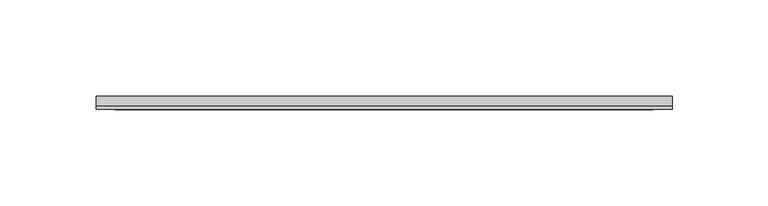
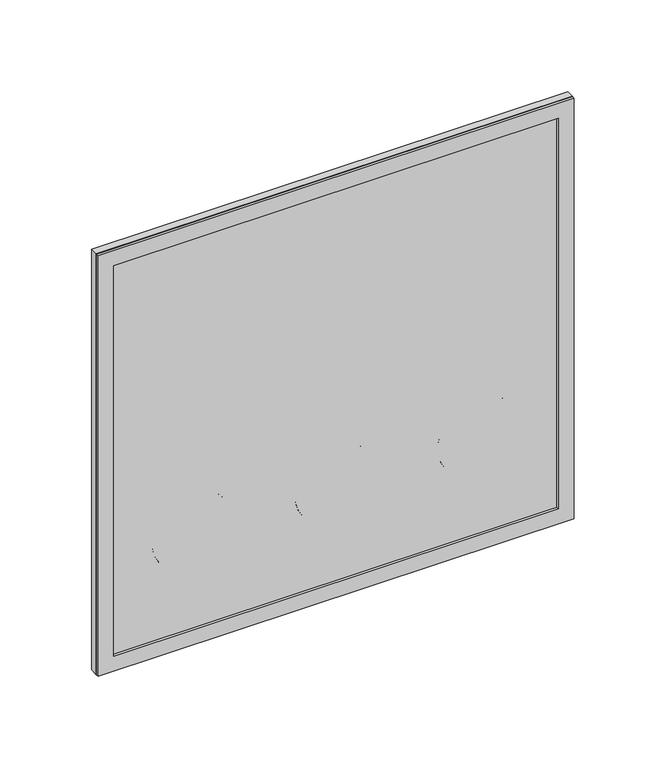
"""IFC4 building model written with IfcOpenShell, lengths in millimetres: alarm geometry, ZYR_12.01.07 Centraletes CO - DET - CI : 02 CENTRALETA CI."""

from ifc_helpers import new_model, si_unit, point, frame, frame_2d, origin, place, context, project, spatial, polyline, circle_curve, trimmed, segment, composite_curve, outline, extrude, source, transform, mapped, element, save


def alarm_a366f336(model_context):
    return source(origin(), model_context, "Body", "SweptSolid", [
        extrude(outline(polyline([(150.0, -5.0), (-150.0, -5.0), (-150.0, 0.0), (150.0, 0.0), (150.0, -5.0)])), frame((0.0, 0.0, -140.0), z_axis=(0.0, 0.0, 1.0), x_axis=(1.0, 0.0, 0.0)), (0.0, 0.0, 1.0), 280.0),
        extrude(outline(polyline([(140.0, 150.0), (140.0, -150.0), (-140.0, -150.0), (-140.0, 150.0), (140.0, 150.0)]), holes=[polyline([(130.0, 140.0), (-130.0, 140.0), (-130.0, -140.0), (130.0, -140.0), (130.0, 140.0)])]), frame((0.0, -7.0, 0.0), z_axis=(0.0, 1.0, 0.0), x_axis=(0.0, 0.0, 1.0)), (0.0, 0.0, 1.0), 2.0),
        extrude(outline(polyline([(100.0, 90.0036001), (100.0, -90.0036001), (0.0, -90.0036001), (0.0, 90.0036001), (100.0, 90.0036001)]), holes=[polyline([(90.0, 80.0036001), (10.0, 80.0036001), (10.0, -80.0036001), (90.0, -80.0036001), (90.0, 80.0036001)])]), frame((0.0, -5.0, 0.0), z_axis=(0.0, 1.0, 0.0), x_axis=(0.0, 0.0, 1.0)), (0.0, 0.0, 1.0), 1.0),
        extrude(outline(composite_curve([segment(trimmed(circle_curve(frame_2d((-65.0013929, -90.0036001)), 25.0), [point((-65.0013929, -115.0036001))], [point((-65.0013929, -65.0036001))], False, "CARTESIAN"), True, "CONTINUOUS"), segment(trimmed(circle_curve(frame_2d((-65.0013929, -90.0036001)), 25.0), [point((-65.0013929, -65.0036001))], [point((-65.0013929, -115.0036001))], False, "CARTESIAN"), True, "CONTINUOUS")], self_intersect=False), holes=[polyline([(-45.0013929, -87.5036001), (-65.0013929, -87.5036001), (-65.0013929, -92.5036001), (-45.0013929, -92.5036001), (-45.0013929, -87.5036001)])]), frame((0.0, -5.0, 0.0), z_axis=(0.0, 1.0, 0.0), x_axis=(0.0, 0.0, 1.0)), (0.0, 0.0, 1.0), 1.0),
        extrude(outline(composite_curve([segment(trimmed(circle_curve(frame_2d((-65.0013929, 0.0)), 25.0), [point((-65.0013929, -25.0))], [point((-65.0013929, 25.0))], False, "CARTESIAN"), True, "CONTINUOUS"), segment(trimmed(circle_curve(frame_2d((-65.0013929, 0.0)), 25.0), [point((-65.0013929, 25.0))], [point((-65.0013929, -25.0))], False, "CARTESIAN"), True, "CONTINUOUS")], self_intersect=False), holes=[polyline([(-45.0013929, 2.5), (-65.0013929, 2.5), (-65.0013929, -2.5), (-45.0013929, -2.5), (-45.0013929, 2.5)])]), frame((0.0, -5.0, 0.0), z_axis=(0.0, 1.0, 0.0), x_axis=(0.0, 0.0, 1.0)), (0.0, 0.0, 1.0), 1.0),
        extrude(outline(composite_curve([segment(trimmed(circle_curve(frame_2d((-65.0013929, 90.0036001)), 25.0), [point((-65.0013929, 65.0036001))], [point((-65.0013929, 115.0036001))], False, "CARTESIAN"), True, "CONTINUOUS"), segment(trimmed(circle_curve(frame_2d((-65.0013929, 90.0036001)), 25.0), [point((-65.0013929, 115.0036001))], [point((-65.0013929, 65.0036001))], False, "CARTESIAN"), True, "CONTINUOUS")], self_intersect=False), holes=[polyline([(-45.0013929, 92.5036001), (-65.0013929, 92.5036001), (-65.0013929, 87.5036001), (-45.0013929, 87.5036001), (-45.0013929, 92.5036001)])]), frame((0.0, -5.0, 0.0), z_axis=(0.0, 1.0, 0.0), x_axis=(0.0, 0.0, 1.0)), (0.0, 0.0, 1.0), 1.0),
    ])


if __name__ == "__main__":
    model = new_model("IFC4")
    model_context = context("Model", 3, world=origin())
    ifc_project = project(units=[si_unit("LENGTHUNIT", "METRE", prefix="MILLI")], contexts=[model_context])
    site = spatial("IfcSite", under=ifc_project)
    building = spatial("IfcBuilding", under=site)
    placement = place(None, origin())
    alarm_shape = alarm_a366f336(model_context)
    element("IfcAlarm", 1, ObjectType="ZYR_12.01.07 Centraletes CO - DET - CI : 02 CENTRALETA CI", at=placement, inside=building, context=model_context, shape_type="MappedRepresentation", body=[
        mapped(alarm_shape, transform((0.0, 0.0, 0.0), x_axis=(1.0, 0.0, 0.0), y_axis=(0.0, 1.0, 0.0), z_axis=(0.0, 0.0, 1.0))),
    ])
    save(model, "model.ifc")
